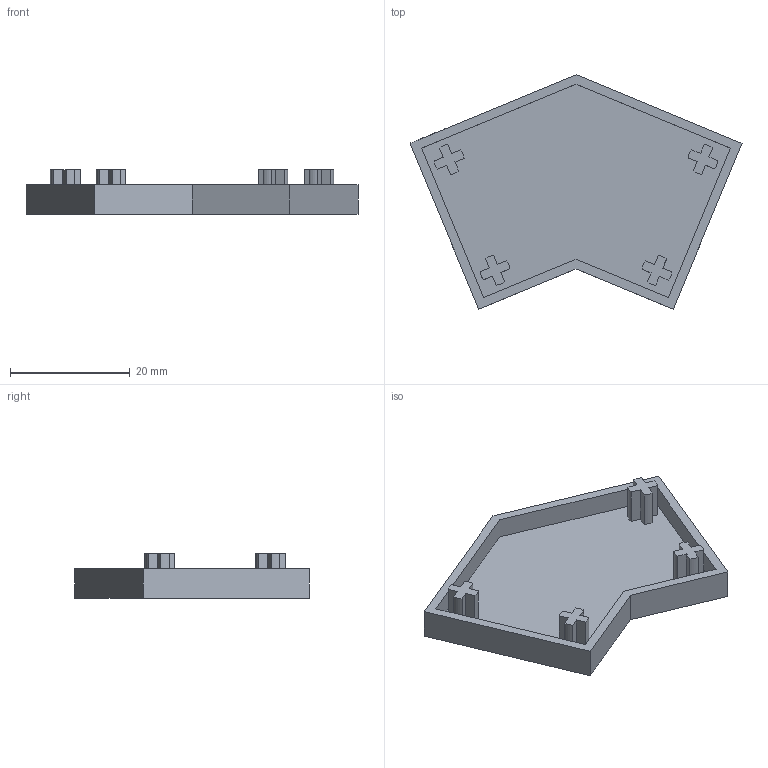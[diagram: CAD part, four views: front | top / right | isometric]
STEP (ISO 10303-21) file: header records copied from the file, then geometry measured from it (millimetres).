
FILE_DESCRIPTION (( 'STEP AP203' ), '1' );
FILE_NAME ('EC30135-6.STEP', '2024-02-17T07:17:08', ( '' ), ( '' ), 'SwSTEP 2.0', 'SolidWorks 2022', '' );
FILE_SCHEMA (( 'CONFIG_CONTROL_DESIGN' ));
Length unit declared in the file: millimetre
Products named in the file (1): EC30135-6
Bounding box: 55.43 x 39.2 x 7.5 mm (x, y, z)
Volume: 3223.6 mm3; surface area: 4590.3 mm2
Topology: 1 solids, 1 shells, 67 faces, 180 edges, 120 vertices
Faces by surface type: plane 51, cylinder 16
Entity records: 2163 total; most frequent: CARTESIAN_POINT 368, ORIENTED_EDGE 360, DIRECTION 348, EDGE_CURVE 180, LINE 148, VECTOR 148, VERTEX_POINT 120, AXIS2_PLACEMENT_3D 100
